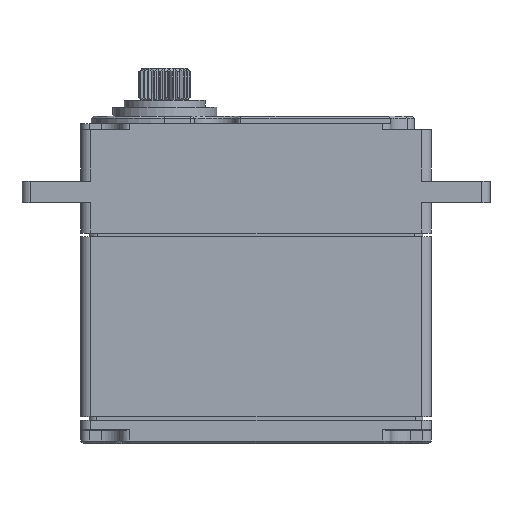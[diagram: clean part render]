
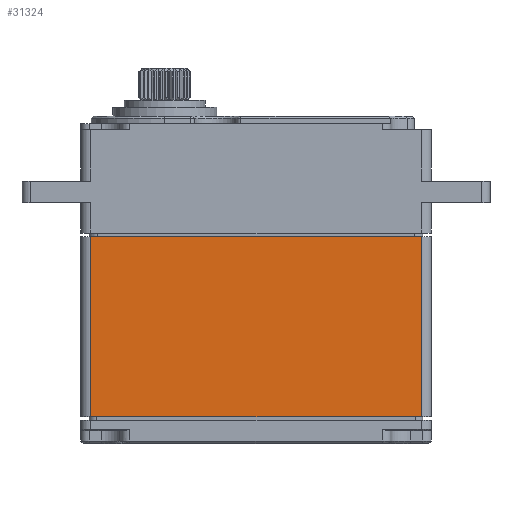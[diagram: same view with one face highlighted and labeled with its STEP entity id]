
A CAD part, front view. The second image highlights one B-rep face of the part: STEP entity #31324.
In plain terms, the highlighted planar face has unit normal (0, -1, 0).
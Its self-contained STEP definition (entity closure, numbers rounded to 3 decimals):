
#519 = CARTESIAN_POINT ( 'NONE',  ( 19.05, -10.5, -34.3 ) ) ;
#2182 = DIRECTION ( 'NONE',  ( 0., 1., 0. ) ) ;
#3341 = DIRECTION ( 'NONE',  ( -1., 0., 0. ) ) ;
#3364 = ORIENTED_EDGE ( 'NONE', *, *, #17071, .F. ) ;
#3379 = FACE_OUTER_BOUND ( 'NONE', #20080, .T. ) ;
#4345 = VECTOR ( 'NONE', #8815, 1000. ) ;
#4574 = VECTOR ( 'NONE', #3341, 1000. ) ;
#4839 = PLANE ( 'NONE',  #23645 ) ;
#5095 = ORIENTED_EDGE ( 'NONE', *, *, #15520, .F. ) ;
#5823 = LINE ( 'NONE', #10084, #20756 ) ;
#7294 = ORIENTED_EDGE ( 'NONE', *, *, #10412, .F. ) ;
#7415 = DIRECTION ( 'NONE',  ( 0., 0., 1. ) ) ;
#7996 = DIRECTION ( 'NONE',  ( 0., 0., -1. ) ) ;
#8353 = LINE ( 'NONE', #519, #22113 ) ;
#8815 = DIRECTION ( 'NONE',  ( 1., 0., 0. ) ) ;
#10084 = CARTESIAN_POINT ( 'NONE',  ( -19.05, -10.5, -34.3 ) ) ;
#10344 = CARTESIAN_POINT ( 'NONE',  ( -3.081, -10.5, -26.3 ) ) ;
#10412 = EDGE_CURVE ( 'NONE', #18413, #28099, #8353, .T. ) ;
#11710 = CARTESIAN_POINT ( 'NONE',  ( 19.05, -10.5, -26.3 ) ) ;
#12450 = CARTESIAN_POINT ( 'NONE',  ( -19.05, -10.5, -5.5 ) ) ;
#14214 = ORIENTED_EDGE ( 'NONE', *, *, #18725, .F. ) ;
#14541 = CARTESIAN_POINT ( 'NONE',  ( 19.05, -10.5, -5.5 ) ) ;
#14587 = VERTEX_POINT ( 'NONE', #20654 ) ;
#15520 = EDGE_CURVE ( 'NONE', #28240, #18413, #28487, .T. ) ;
#17071 = EDGE_CURVE ( 'NONE', #14587, #28240, #5823, .T. ) ;
#17910 = CARTESIAN_POINT ( 'NONE',  ( -20.25, -10.5, -5.5 ) ) ;
#18413 = VERTEX_POINT ( 'NONE', #14541 ) ;
#18725 = EDGE_CURVE ( 'NONE', #28099, #14587, #28738, .T. ) ;
#20080 = EDGE_LOOP ( 'NONE', ( #5095, #3364, #14214, #7294 ) ) ;
#20654 = CARTESIAN_POINT ( 'NONE',  ( -19.05, -10.5, -26.3 ) ) ;
#20756 = VECTOR ( 'NONE', #22446, 1000. ) ;
#22113 = VECTOR ( 'NONE', #7996, 1000. ) ;
#22446 = DIRECTION ( 'NONE',  ( 0., 0., 1. ) ) ;
#23645 = AXIS2_PLACEMENT_3D ( 'NONE', #26568, #2182, #7415 ) ;
#26568 = CARTESIAN_POINT ( 'NONE',  ( -20.25, -10.5, -34.3 ) ) ;
#28099 = VERTEX_POINT ( 'NONE', #11710 ) ;
#28240 = VERTEX_POINT ( 'NONE', #12450 ) ;
#28487 = LINE ( 'NONE', #17910, #4345 ) ;
#28738 = LINE ( 'NONE', #10344, #4574 ) ;
#31324 = ADVANCED_FACE ( 'NONE', ( #3379 ), #4839, .F. ) ;
